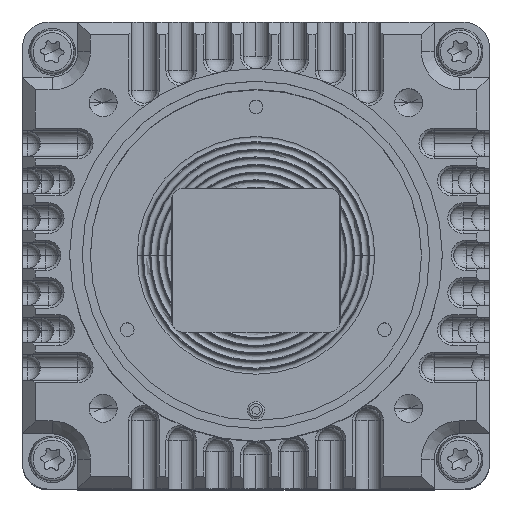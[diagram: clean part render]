
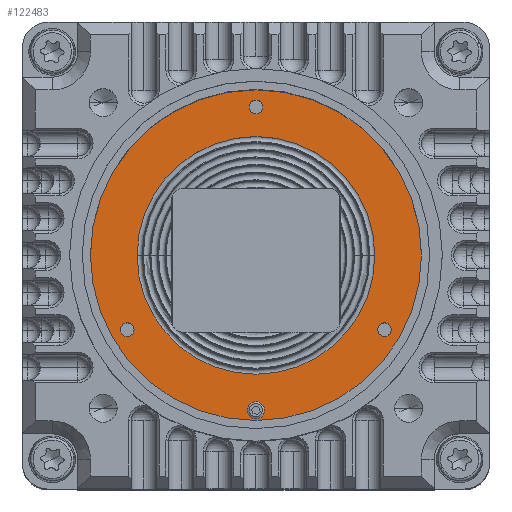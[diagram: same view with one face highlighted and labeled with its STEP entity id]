
A CAD part, top view. The second image highlights one B-rep face of the part: STEP entity #122483.
In plain terms, the highlighted planar face has unit normal (0, 0, 1).
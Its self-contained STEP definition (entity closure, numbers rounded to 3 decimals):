
#539 = VERTEX_POINT ( 'NONE', #72212 ) ;
#1399 = VERTEX_POINT ( 'NONE', #40799 ) ;
#3285 = CIRCLE ( 'NONE', #81715, 0.8 ) ;
#3635 = CARTESIAN_POINT ( 'NONE',  ( 0., 0., 18.6 ) ) ;
#6880 = CIRCLE ( 'NONE', #74055, 0.8 ) ;
#6891 = VERTEX_POINT ( 'NONE', #61998 ) ;
#7229 = VERTEX_POINT ( 'NONE', #28433 ) ;
#11975 = ORIENTED_EDGE ( 'NONE', *, *, #74983, .F. ) ;
#12383 = DIRECTION ( 'NONE',  ( 0., 1., 0. ) ) ;
#12823 = VERTEX_POINT ( 'NONE', #66844 ) ;
#14951 = EDGE_CURVE ( 'NONE', #7229, #1399, #137531, .T. ) ;
#15717 = FACE_BOUND ( 'NONE', #79389, .T. ) ;
#18150 = CIRCLE ( 'NONE', #136974, 0.8 ) ;
#18681 = VERTEX_POINT ( 'NONE', #81341 ) ;
#19482 = EDGE_CURVE ( 'NONE', #63528, #72106, #6880, .T. ) ;
#20101 = CARTESIAN_POINT ( 'NONE',  ( 15.155, -8.75, 18.6 ) ) ;
#20743 = ORIENTED_EDGE ( 'NONE', *, *, #62105, .F. ) ;
#21181 = DIRECTION ( 'NONE',  ( 0., 1., 0. ) ) ;
#22583 = ORIENTED_EDGE ( 'NONE', *, *, #66107, .F. ) ;
#23355 = AXIS2_PLACEMENT_3D ( 'NONE', #30271, #73035, #52006 ) ;
#24634 = DIRECTION ( 'NONE',  ( 0., 0., -1. ) ) ;
#25319 = CARTESIAN_POINT ( 'NONE',  ( 15.155, -8.75, 18.6 ) ) ;
#25333 = DIRECTION ( 'NONE',  ( 0., 0., 1. ) ) ;
#27269 = ORIENTED_EDGE ( 'NONE', *, *, #94121, .F. ) ;
#28116 = AXIS2_PLACEMENT_3D ( 'NONE', #115661, #116353, #126917 ) ;
#28433 = CARTESIAN_POINT ( 'NONE',  ( 0., 14., 18.6 ) ) ;
#29599 = DIRECTION ( 'NONE',  ( 0., 0., -1. ) ) ;
#30092 = AXIS2_PLACEMENT_3D ( 'NONE', #85960, #55730, #120457 ) ;
#30271 = CARTESIAN_POINT ( 'NONE',  ( 0., 0., 18.6 ) ) ;
#32010 = AXIS2_PLACEMENT_3D ( 'NONE', #123876, #116185, #94300 ) ;
#32062 = AXIS2_PLACEMENT_3D ( 'NONE', #99944, #113310, #68327 ) ;
#34574 = CARTESIAN_POINT ( 'NONE',  ( 0., 19.5, 18.6 ) ) ;
#36118 = EDGE_CURVE ( 'NONE', #539, #75385, #3285, .T. ) ;
#36376 = EDGE_CURVE ( 'NONE', #12823, #18681, #43868, .T. ) ;
#36777 = CIRCLE ( 'NONE', #30092, 0.8 ) ;
#37855 = CARTESIAN_POINT ( 'NONE',  ( -15.155, -8.75, 18.6 ) ) ;
#39184 = DIRECTION ( 'NONE',  ( 0., 0., -1. ) ) ;
#39660 = ORIENTED_EDGE ( 'NONE', *, *, #97164, .T. ) ;
#39930 = VERTEX_POINT ( 'NONE', #34574 ) ;
#40043 = CARTESIAN_POINT ( 'NONE',  ( 15.155, -7.95, 18.6 ) ) ;
#40446 = AXIS2_PLACEMENT_3D ( 'NONE', #3635, #39184, #68153 ) ;
#40799 = CARTESIAN_POINT ( 'NONE',  ( 0., -14., 18.6 ) ) ;
#41912 = EDGE_CURVE ( 'NONE', #39930, #117014, #87576, .T. ) ;
#43868 = CIRCLE ( 'NONE', #28116, 0.8 ) ;
#47251 = ORIENTED_EDGE ( 'NONE', *, *, #41912, .F. ) ;
#48016 = FACE_BOUND ( 'NONE', #131792, .T. ) ;
#51360 = CARTESIAN_POINT ( 'NONE',  ( 0., 0., 18.6 ) ) ;
#52006 = DIRECTION ( 'NONE',  ( 0., 1., 0. ) ) ;
#55730 = DIRECTION ( 'NONE',  ( 0., 0., 1. ) ) ;
#55834 = CIRCLE ( 'NONE', #118799, 14. ) ;
#56196 = DIRECTION ( 'NONE',  ( 0., 0., 1. ) ) ;
#57512 = DIRECTION ( 'NONE',  ( 0., 0., 1. ) ) ;
#57788 = AXIS2_PLACEMENT_3D ( 'NONE', #120867, #24634, #120202 ) ;
#58470 = CARTESIAN_POINT ( 'NONE',  ( 15.155, -9.55, 18.6 ) ) ;
#59585 = DIRECTION ( 'NONE',  ( 0., -1., 0. ) ) ;
#59982 = CIRCLE ( 'NONE', #57788, 0.8 ) ;
#61066 = CIRCLE ( 'NONE', #32062, 0.8 ) ;
#61998 = CARTESIAN_POINT ( 'NONE',  ( 0., 16.7, 18.6 ) ) ;
#62105 = EDGE_CURVE ( 'NONE', #75385, #539, #18150, .T. ) ;
#62325 = EDGE_LOOP ( 'NONE', ( #20743, #103397 ) ) ;
#63528 = VERTEX_POINT ( 'NONE', #40043 ) ;
#65227 = CARTESIAN_POINT ( 'NONE',  ( -15.155, -7.95, 18.6 ) ) ;
#65752 = EDGE_LOOP ( 'NONE', ( #129756, #139061 ) ) ;
#66107 = EDGE_CURVE ( 'NONE', #72106, #63528, #106882, .T. ) ;
#66844 = CARTESIAN_POINT ( 'NONE',  ( 0., -17.45, 18.6 ) ) ;
#68049 = DIRECTION ( 'NONE',  ( 0., -1., 0. ) ) ;
#68153 = DIRECTION ( 'NONE',  ( 0., 1., 0. ) ) ;
#68327 = DIRECTION ( 'NONE',  ( 0., -1., 0. ) ) ;
#68792 = DIRECTION ( 'NONE',  ( 0., -1., 0. ) ) ;
#69707 = FACE_BOUND ( 'NONE', #95420, .T. ) ;
#70271 = CARTESIAN_POINT ( 'NONE',  ( 0., 0., 18.6 ) ) ;
#72106 = VERTEX_POINT ( 'NONE', #58470 ) ;
#72212 = CARTESIAN_POINT ( 'NONE',  ( -15.155, -9.55, 18.6 ) ) ;
#73035 = DIRECTION ( 'NONE',  ( 0., 0., -1. ) ) ;
#74055 = AXIS2_PLACEMENT_3D ( 'NONE', #20101, #105109, #136704 ) ;
#74983 = EDGE_CURVE ( 'NONE', #100333, #6891, #61066, .T. ) ;
#75385 = VERTEX_POINT ( 'NONE', #65227 ) ;
#75522 = EDGE_LOOP ( 'NONE', ( #47251, #27269 ) ) ;
#76865 = AXIS2_PLACEMENT_3D ( 'NONE', #70271, #108636, #12383 ) ;
#79389 = EDGE_LOOP ( 'NONE', ( #91795, #22583 ) ) ;
#81341 = CARTESIAN_POINT ( 'NONE',  ( 0., -19.05, 18.6 ) ) ;
#81621 = CIRCLE ( 'NONE', #23355, 19.5 ) ;
#81715 = AXIS2_PLACEMENT_3D ( 'NONE', #37855, #25333, #59585 ) ;
#85960 = CARTESIAN_POINT ( 'NONE',  ( 0., 17.5, 18.6 ) ) ;
#86988 = CARTESIAN_POINT ( 'NONE',  ( 0., -19.5, 18.6 ) ) ;
#87576 = CIRCLE ( 'NONE', #40446, 19.5 ) ;
#91795 = ORIENTED_EDGE ( 'NONE', *, *, #19482, .F. ) ;
#94121 = EDGE_CURVE ( 'NONE', #117014, #39930, #81621, .T. ) ;
#94300 = DIRECTION ( 'NONE',  ( 0., -1., 0. ) ) ;
#95420 = EDGE_LOOP ( 'NONE', ( #11975, #99363 ) ) ;
#97164 = EDGE_CURVE ( 'NONE', #18681, #12823, #59982, .T. ) ;
#99363 = ORIENTED_EDGE ( 'NONE', *, *, #132417, .F. ) ;
#99944 = CARTESIAN_POINT ( 'NONE',  ( 0., 17.5, 18.6 ) ) ;
#100333 = VERTEX_POINT ( 'NONE', #123281 ) ;
#101409 = PLANE ( 'NONE',  #32010 ) ;
#103397 = ORIENTED_EDGE ( 'NONE', *, *, #36118, .F. ) ;
#105109 = DIRECTION ( 'NONE',  ( 0., 0., 1. ) ) ;
#106882 = CIRCLE ( 'NONE', #129367, 0.8 ) ;
#108636 = DIRECTION ( 'NONE',  ( 0., 0., -1. ) ) ;
#110641 = FACE_OUTER_BOUND ( 'NONE', #75522, .T. ) ;
#111328 = FACE_BOUND ( 'NONE', #62325, .T. ) ;
#111993 = FACE_BOUND ( 'NONE', #65752, .T. ) ;
#113310 = DIRECTION ( 'NONE',  ( 0., 0., 1. ) ) ;
#115661 = CARTESIAN_POINT ( 'NONE',  ( 0., -18.25, 18.6 ) ) ;
#116185 = DIRECTION ( 'NONE',  ( 0., 0., 1. ) ) ;
#116353 = DIRECTION ( 'NONE',  ( 0., 0., -1. ) ) ;
#117014 = VERTEX_POINT ( 'NONE', #86988 ) ;
#118799 = AXIS2_PLACEMENT_3D ( 'NONE', #51360, #29599, #21181 ) ;
#120202 = DIRECTION ( 'NONE',  ( 0., -1., 0. ) ) ;
#120457 = DIRECTION ( 'NONE',  ( 0., -1., 0. ) ) ;
#120867 = CARTESIAN_POINT ( 'NONE',  ( 0., -18.25, 18.6 ) ) ;
#122483 = ADVANCED_FACE ( 'NONE', ( #110641, #111993, #111328, #15717, #69707, #48016 ), #101409, .T. ) ;
#123281 = CARTESIAN_POINT ( 'NONE',  ( 0., 18.3, 18.6 ) ) ;
#123876 = CARTESIAN_POINT ( 'NONE',  ( 0., 19.5, 18.6 ) ) ;
#126917 = DIRECTION ( 'NONE',  ( 0., -1., 0. ) ) ;
#129367 = AXIS2_PLACEMENT_3D ( 'NONE', #25319, #57512, #68049 ) ;
#129756 = ORIENTED_EDGE ( 'NONE', *, *, #14951, .T. ) ;
#129910 = EDGE_CURVE ( 'NONE', #1399, #7229, #55834, .T. ) ;
#130298 = ORIENTED_EDGE ( 'NONE', *, *, #36376, .T. ) ;
#130782 = CARTESIAN_POINT ( 'NONE',  ( -15.155, -8.75, 18.6 ) ) ;
#131792 = EDGE_LOOP ( 'NONE', ( #130298, #39660 ) ) ;
#132417 = EDGE_CURVE ( 'NONE', #6891, #100333, #36777, .T. ) ;
#136704 = DIRECTION ( 'NONE',  ( 0., -1., 0. ) ) ;
#136974 = AXIS2_PLACEMENT_3D ( 'NONE', #130782, #56196, #68792 ) ;
#137531 = CIRCLE ( 'NONE', #76865, 14. ) ;
#139061 = ORIENTED_EDGE ( 'NONE', *, *, #129910, .T. ) ;
